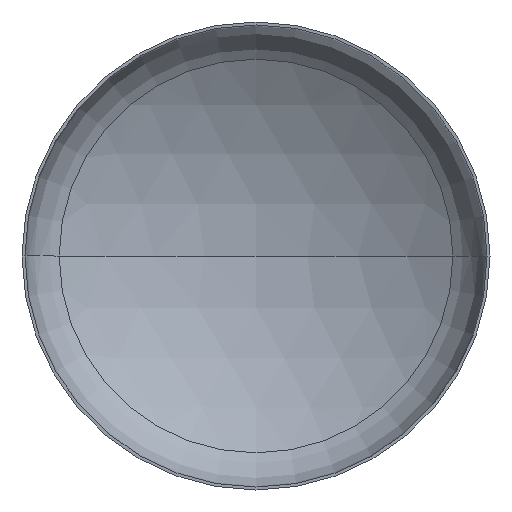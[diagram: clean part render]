
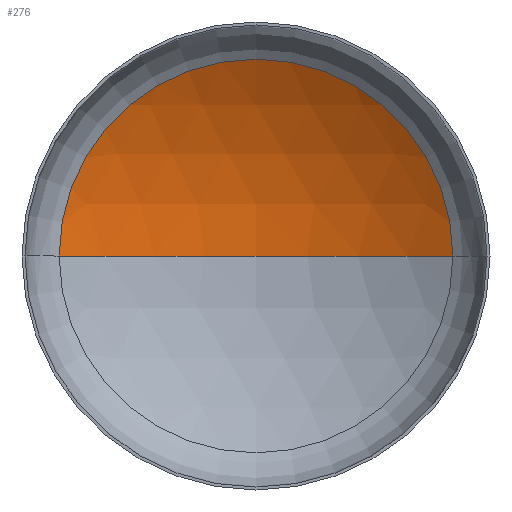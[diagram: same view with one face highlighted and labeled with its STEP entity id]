
A CAD part, front view. The second image highlights one B-rep face of the part: STEP entity #276.
In plain terms, the highlighted spherical face has radius 4800 mm.
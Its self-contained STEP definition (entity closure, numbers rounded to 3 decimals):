
#10 = VERTEX_POINT ( 'NONE', #30 ) ;
#12 = ORIENTED_EDGE ( 'NONE', *, *, #186, .T. ) ;
#17 = DIRECTION ( 'NONE',  ( -1., 0., 0. ) ) ;
#18 = ORIENTED_EDGE ( 'NONE', *, *, #190, .F. ) ;
#29 = SPHERICAL_SURFACE ( 'NONE', #59, 4800. ) ;
#30 = CARTESIAN_POINT ( 'NONE',  ( -2523.252, 906.883, 0. ) ) ;
#46 = VERTEX_POINT ( 'NONE', #262 ) ;
#59 = AXIS2_PLACEMENT_3D ( 'NONE', #182, #401, #92 ) ;
#82 = EDGE_LOOP ( 'NONE', ( #18, #12, #100 ) ) ;
#92 = DIRECTION ( 'NONE',  ( -1., 0., 0. ) ) ;
#100 = ORIENTED_EDGE ( 'NONE', *, *, #184, .T. ) ;
#112 = CIRCLE ( 'NONE', #128, 2523.252 ) ;
#115 = AXIS2_PLACEMENT_3D ( 'NONE', #210, #189, #204 ) ;
#124 = AXIS2_PLACEMENT_3D ( 'NONE', #135, #176, #17 ) ;
#128 = AXIS2_PLACEMENT_3D ( 'NONE', #200, #243, #387 ) ;
#135 = CARTESIAN_POINT ( 'NONE',  ( 0., -3176.4, 0. ) ) ;
#176 = DIRECTION ( 'NONE',  ( 0., 0., -1. ) ) ;
#182 = CARTESIAN_POINT ( 'NONE',  ( 0., -3176.4, 0. ) ) ;
#184 = EDGE_CURVE ( 'NONE', #344, #10, #112, .T. ) ;
#186 = EDGE_CURVE ( 'NONE', #46, #344, #384, .T. ) ;
#189 = DIRECTION ( 'NONE',  ( 0., 0., 1. ) ) ;
#190 = EDGE_CURVE ( 'NONE', #46, #10, #327, .T. ) ;
#200 = CARTESIAN_POINT ( 'NONE',  ( 0., 906.883, 0. ) ) ;
#204 = DIRECTION ( 'NONE',  ( 1., 0., 0. ) ) ;
#210 = CARTESIAN_POINT ( 'NONE',  ( 0., -3176.4, 0. ) ) ;
#243 = DIRECTION ( 'NONE',  ( 0., -1., 0. ) ) ;
#257 = FACE_OUTER_BOUND ( 'NONE', #82, .T. ) ;
#262 = CARTESIAN_POINT ( 'NONE',  ( 0., 1623.6, 0. ) ) ;
#276 = ADVANCED_FACE ( 'NONE', ( #257 ), #29, .F. ) ;
#327 = CIRCLE ( 'NONE', #115, 4800. ) ;
#344 = VERTEX_POINT ( 'NONE', #366 ) ;
#366 = CARTESIAN_POINT ( 'NONE',  ( 2523.252, 906.883, 0. ) ) ;
#384 = CIRCLE ( 'NONE', #124, 4800. ) ;
#387 = DIRECTION ( 'NONE',  ( 1., 0., 0. ) ) ;
#401 = DIRECTION ( 'NONE',  ( 0., 0., -1. ) ) ;
